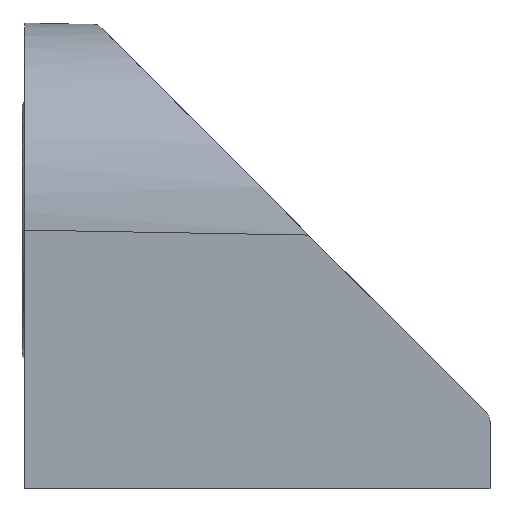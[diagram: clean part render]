
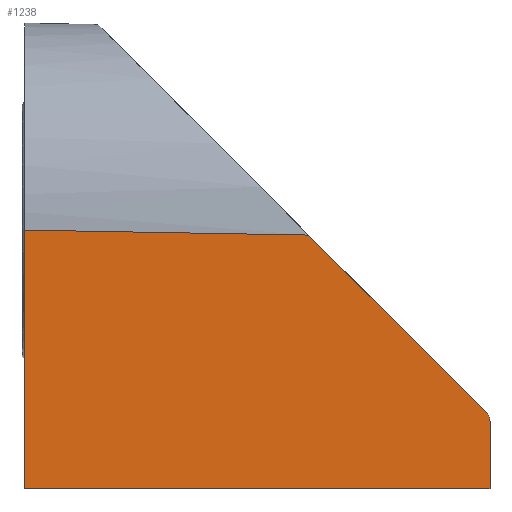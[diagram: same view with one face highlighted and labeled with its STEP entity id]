
A CAD part, left-side view. The second image highlights one B-rep face of the part: STEP entity #1238.
In plain terms, the highlighted planar face has unit normal (-1, 0, 0).
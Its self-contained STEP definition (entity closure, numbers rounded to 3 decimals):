
#6 = LINE ( 'NONE', #328, #428 ) ;
#8 = EDGE_CURVE ( 'NONE', #296, #20, #612, .T. ) ;
#12 = FACE_OUTER_BOUND ( 'NONE', #201, .T. ) ;
#20 = VERTEX_POINT ( 'NONE', #149 ) ;
#43 = VECTOR ( 'NONE', #1363, 1000. ) ;
#64 = DIRECTION ( 'NONE',  ( 0., -1., -0.017 ) ) ;
#89 = ORIENTED_EDGE ( 'NONE', *, *, #1299, .F. ) ;
#149 = CARTESIAN_POINT ( 'NONE',  ( -16., -36., 5.196 ) ) ;
#179 = EDGE_CURVE ( 'NONE', #1018, #713, #489, .T. ) ;
#194 = VECTOR ( 'NONE', #1228, 1000. ) ;
#201 = EDGE_LOOP ( 'NONE', ( #1278, #989, #89, #1079, #1237, #259 ) ) ;
#221 = VERTEX_POINT ( 'NONE', #1176 ) ;
#259 = ORIENTED_EDGE ( 'NONE', *, *, #740, .F. ) ;
#296 = VERTEX_POINT ( 'NONE', #1369 ) ;
#328 = CARTESIAN_POINT ( 'NONE',  ( -16., -36., 5.196 ) ) ;
#428 = VECTOR ( 'NONE', #1390, 1000. ) ;
#489 = LINE ( 'NONE', #695, #43 ) ;
#543 = AXIS2_PLACEMENT_3D ( 'NONE', #735, #1074, #833 ) ;
#564 = EDGE_CURVE ( 'NONE', #1154, #296, #1118, .T. ) ;
#612 = CIRCLE ( 'NONE', #656, 1. ) ;
#656 = AXIS2_PLACEMENT_3D ( 'NONE', #1084, #1202, #783 ) ;
#679 = VECTOR ( 'NONE', #1276, 1000. ) ;
#695 = CARTESIAN_POINT ( 'NONE',  ( -16., 0., 5.196 ) ) ;
#710 = LINE ( 'NONE', #1025, #1090 ) ;
#713 = VERTEX_POINT ( 'NONE', #1136 ) ;
#735 = CARTESIAN_POINT ( 'NONE',  ( -16., -35., 5.196 ) ) ;
#740 = EDGE_CURVE ( 'NONE', #713, #1154, #710, .T. ) ;
#783 = DIRECTION ( 'NONE',  ( 0., -1., 0. ) ) ;
#798 = CARTESIAN_POINT ( 'NONE',  ( -16., -21.991, 19.619 ) ) ;
#833 = DIRECTION ( 'NONE',  ( 0., 1., 0. ) ) ;
#844 = LINE ( 'NONE', #1186, #679 ) ;
#875 = CARTESIAN_POINT ( 'NONE',  ( -16., 0., 0. ) ) ;
#900 = EDGE_CURVE ( 'NONE', #1018, #221, #844, .T. ) ;
#971 = PLANE ( 'NONE',  #543 ) ;
#989 = ORIENTED_EDGE ( 'NONE', *, *, #900, .T. ) ;
#1018 = VERTEX_POINT ( 'NONE', #875 ) ;
#1025 = CARTESIAN_POINT ( 'NONE',  ( -16., 0., 20.003 ) ) ;
#1074 = DIRECTION ( 'NONE',  ( 1., 0., 0. ) ) ;
#1079 = ORIENTED_EDGE ( 'NONE', *, *, #8, .F. ) ;
#1084 = CARTESIAN_POINT ( 'NONE',  ( -16., -35., 5.196 ) ) ;
#1090 = VECTOR ( 'NONE', #64, 1000. ) ;
#1118 = LINE ( 'NONE', #1232, #194 ) ;
#1136 = CARTESIAN_POINT ( 'NONE',  ( -16., 0., 20.003 ) ) ;
#1154 = VERTEX_POINT ( 'NONE', #798 ) ;
#1176 = CARTESIAN_POINT ( 'NONE',  ( -16., -36., 0. ) ) ;
#1186 = CARTESIAN_POINT ( 'NONE',  ( -16., -36., 0. ) ) ;
#1202 = DIRECTION ( 'NONE',  ( 1., 0., 0. ) ) ;
#1228 = DIRECTION ( 'NONE',  ( 0., -0.707, -0.707 ) ) ;
#1232 = CARTESIAN_POINT ( 'NONE',  ( -16., -21.991, 19.619 ) ) ;
#1237 = ORIENTED_EDGE ( 'NONE', *, *, #564, .F. ) ;
#1238 = ADVANCED_FACE ( 'NONE', ( #12 ), #971, .F. ) ;
#1276 = DIRECTION ( 'NONE',  ( 0., -1., 0. ) ) ;
#1278 = ORIENTED_EDGE ( 'NONE', *, *, #179, .F. ) ;
#1299 = EDGE_CURVE ( 'NONE', #20, #221, #6, .T. ) ;
#1363 = DIRECTION ( 'NONE',  ( 0., 0., 1. ) ) ;
#1369 = CARTESIAN_POINT ( 'NONE',  ( -16., -35.707, 5.903 ) ) ;
#1390 = DIRECTION ( 'NONE',  ( 0., 0., -1. ) ) ;
